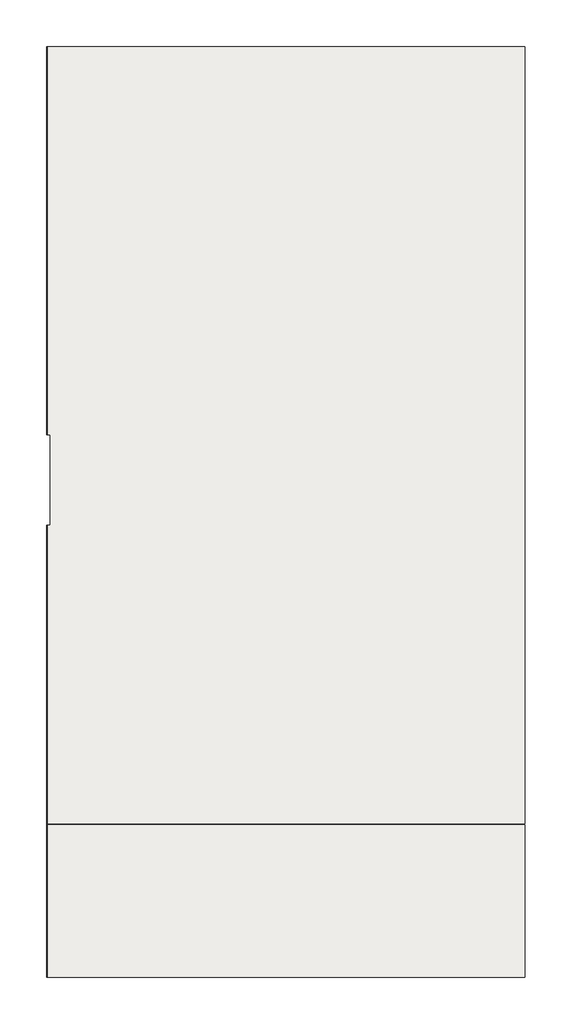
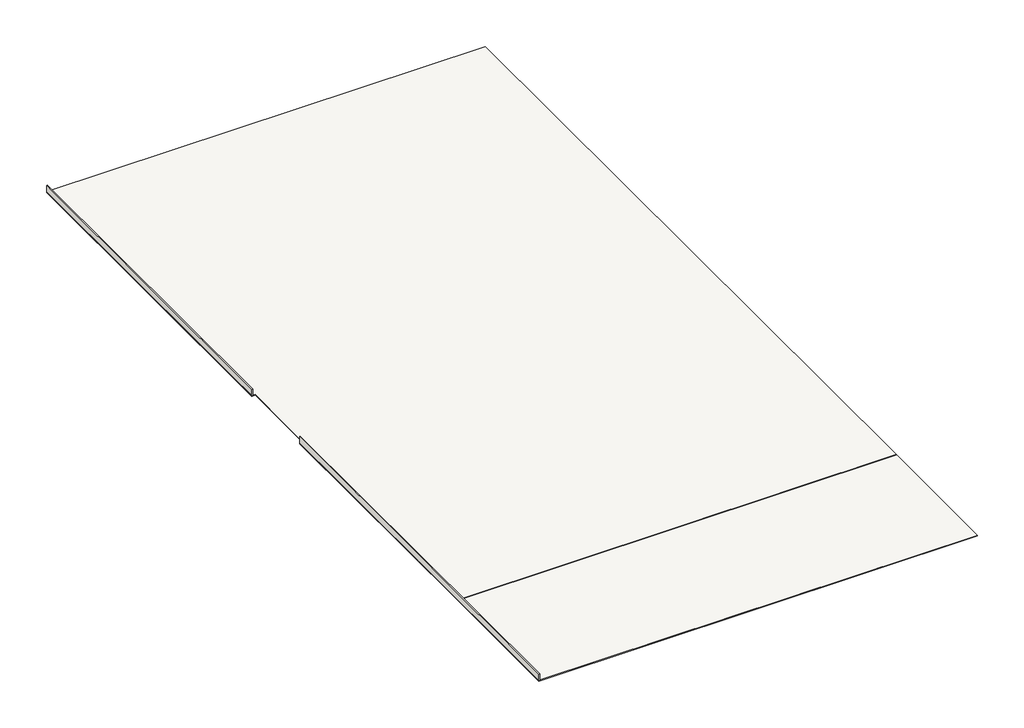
# One storey: 2 slabs, 2 walls.
"""IFC4 building model written with IfcOpenShell, lengths in millimetres."""

from ifc_helpers import new_model, si_unit, frame, origin, place, context, project, spatial, polyline, outline, extrude, element, save

model = new_model("IFC4")

# Units and contexts
model_context = context("Model", 3, world=origin())
ifc_project = project(units=[si_unit("LENGTHUNIT", "METRE", prefix="MILLI")], contexts=[model_context])

# Site, building, storey
site = spatial("IfcSite", under=ifc_project)
building = spatial("IfcBuilding", under=site)
storey = spatial("IfcBuildingStorey", under=building, Name="1 - Sopra piastrella", Elevation=3060.0)

# Slabs
placement = place(None, origin())
element("IfcSlab", 1, ObjectType="Rivestimento ceramico 1 cm", at=placement, inside=storey, context=model_context, shape_type="SweptSolid", body=[
    extrude(outline(polyline([(676.5769647, 7140.2673061), (676.5769647, -1459.7326939), (-4622.4230353, -1459.7326939), (-4622.4230353, 1844.2570078), (-4583.4230353, 1844.2570078), (-4583.4230353, 2844.2570078), (-4622.4230353, 2844.2570078), (-4622.4230353, 7140.2673061), (676.5769647, 7140.2673061)])), frame((0.0, 0.0, 3050.0), z_axis=(0.0, 0.0, 1.0), x_axis=(1.0, 0.0, 0.0)), (0.0, 0.0, 1.0), 10.0),
])
element("IfcSlab", 2, ObjectType="Rivestimento ceramico 1 cm", at=placement, inside=storey, context=model_context, shape_type="SweptSolid", body=[
    extrude(outline(polyline([(676.5769647, -1469.7326939), (676.5769647, -3159.7326939), (-4622.4230353, -3159.7326939), (-4622.4230353, -1469.7326939), (676.5769647, -1469.7326939)])), frame((0.0, 0.0, 3050.0), z_axis=(0.0, 0.0, 1.0), x_axis=(1.0, 0.0, 0.0)), (0.0, 0.0, 1.0), 10.0),
])

# Walls
element("IfcWall", 3, ObjectType="Battiscopa", at=placement, inside=storey, context=model_context, shape_type="SweptSolid", body=[
    extrude(outline(polyline([(-4612.4230353, 1844.2570078), (-4612.4230353, -3159.7326939), (-4622.4230353, -3159.7326939), (-4622.4230353, 1844.2570078), (-4612.4230353, 1844.2570078)])), frame((0.0, 0.0, 3060.0), z_axis=(0.0, 0.0, 1.0), x_axis=(1.0, 0.0, 0.0)), (0.0, 0.0, 1.0), 80.0),
])
element("IfcWall", 4, ObjectType="Battiscopa", at=placement, inside=storey, context=model_context, shape_type="SweptSolid", body=[
    extrude(outline(polyline([(-4612.4230353, 7140.2673061), (-4612.4230353, 2844.2570078), (-4622.4230353, 2844.2570078), (-4622.4230353, 7140.2673061), (-4612.4230353, 7140.2673061)])), frame((0.0, 0.0, 3060.0), z_axis=(0.0, 0.0, 1.0), x_axis=(1.0, 0.0, 0.0)), (0.0, 0.0, 1.0), 80.0),
])

save(model, "model.ifc")
